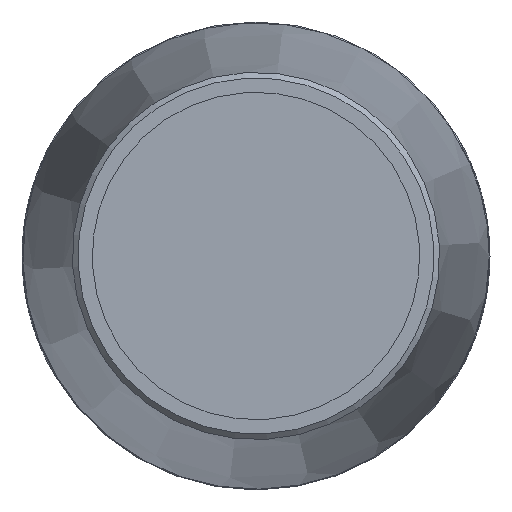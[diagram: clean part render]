
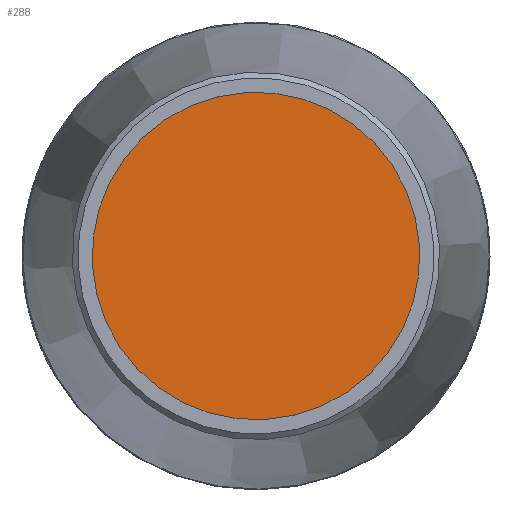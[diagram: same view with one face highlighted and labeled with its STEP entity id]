
A CAD part, left-side view. The second image highlights one B-rep face of the part: STEP entity #288.
In plain terms, the highlighted planar face has unit normal (-1, 0, 0).
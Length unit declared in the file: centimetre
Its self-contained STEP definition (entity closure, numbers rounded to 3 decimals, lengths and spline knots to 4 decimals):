
#46=PLANE('',#317);
#71=FACE_OUTER_BOUND('',#97,.T.);
#97=EDGE_LOOP('',(#203));
#128=CIRCLE('',#316,1.575);
#142=VERTEX_POINT('',#437);
#168=EDGE_CURVE('',#142,#142,#128,.T.);
#203=ORIENTED_EDGE('',*,*,#168,.T.);
#288=ADVANCED_FACE('',(#71),#46,.T.);
#316=AXIS2_PLACEMENT_3D('',#438,#363,#364);
#317=AXIS2_PLACEMENT_3D('',#439,#365,#366);
#363=DIRECTION('center_axis',(-1.,0.,0.));
#364=DIRECTION('ref_axis',(0.,0.396,0.918));
#365=DIRECTION('center_axis',(-1.,0.,0.));
#366=DIRECTION('ref_axis',(0.,0.396,0.918));
#437=CARTESIAN_POINT('',(-11.3,-1.4459,0.6244));
#438=CARTESIAN_POINT('Origin',(-11.3,0.,0.));
#439=CARTESIAN_POINT('Origin',(-11.3,0.,0.));
